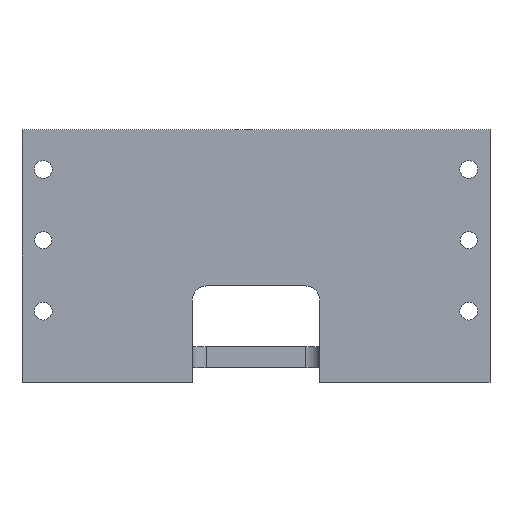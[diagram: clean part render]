
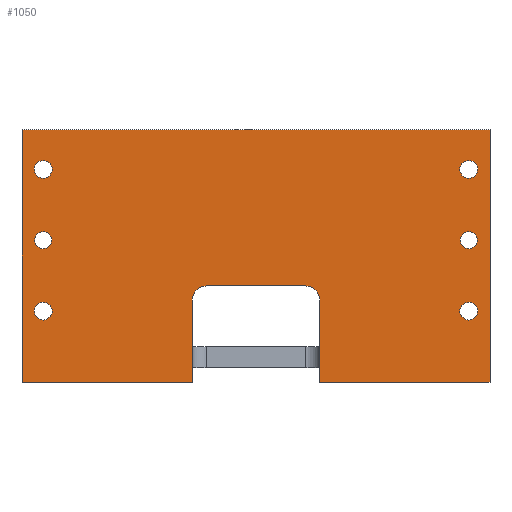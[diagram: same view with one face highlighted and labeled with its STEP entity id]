
A CAD part, front view. The second image highlights one B-rep face of the part: STEP entity #1050.
In plain terms, the highlighted planar face has unit normal (0, -1, 0).
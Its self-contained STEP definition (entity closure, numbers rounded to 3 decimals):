
#18=FACE_BOUND($,#148,.T.);
#19=FACE_BOUND($,#149,.T.);
#20=FACE_BOUND($,#150,.T.);
#21=FACE_BOUND($,#151,.T.);
#22=FACE_BOUND($,#152,.T.);
#23=FACE_BOUND($,#153,.T.);
#55=PLANE($,#1117);
#91=FACE_OUTER_BOUND($,#147,.T.);
#147=EDGE_LOOP($,(#770,#771,#772,#773,#774,#775,#776,#777,#778,#779));
#148=EDGE_LOOP($,(#780));
#149=EDGE_LOOP($,(#781));
#150=EDGE_LOOP($,(#782));
#151=EDGE_LOOP($,(#783));
#152=EDGE_LOOP($,(#784));
#153=EDGE_LOOP($,(#785));
#220=LINE($,#1469,#322);
#232=LINE($,#1503,#334);
#236=LINE($,#1514,#338);
#263=LINE($,#1579,#365);
#264=LINE($,#1581,#366);
#265=LINE($,#1583,#367);
#266=LINE($,#1585,#368);
#267=LINE($,#1586,#369);
#322=VECTOR($,#1192,70.);
#334=VECTOR($,#1220,57.8);
#338=VECTOR($,#1232,57.8);
#365=VECTOR($,#1279,120.);
#366=VECTOR($,#1280,177.8);
#367=VECTOR($,#1281,330.);
#368=VECTOR($,#1282,177.8);
#369=VECTOR($,#1283,120.);
#421=CIRCLE($,#1094,10.);
#426=CIRCLE($,#1105,10.);
#434=CIRCLE($,#1118,6.);
#435=CIRCLE($,#1119,6.);
#436=CIRCLE($,#1120,6.25);
#437=CIRCLE($,#1121,6.25);
#438=CIRCLE($,#1122,6.25);
#439=CIRCLE($,#1123,6.25);
#458=VERTEX_POINT($,#1459);
#459=VERTEX_POINT($,#1461);
#461=VERTEX_POINT($,#1467);
#474=VERTEX_POINT($,#1500);
#475=VERTEX_POINT($,#1502);
#478=VERTEX_POINT($,#1513);
#506=VERTEX_POINT($,#1578);
#507=VERTEX_POINT($,#1580);
#508=VERTEX_POINT($,#1582);
#509=VERTEX_POINT($,#1584);
#510=VERTEX_POINT($,#1587);
#511=VERTEX_POINT($,#1589);
#512=VERTEX_POINT($,#1591);
#513=VERTEX_POINT($,#1593);
#514=VERTEX_POINT($,#1595);
#515=VERTEX_POINT($,#1597);
#558=EDGE_CURVE($,#458,#459,#421,.T.);
#562=EDGE_CURVE($,#458,#461,#220,.T.);
#578=EDGE_CURVE($,#475,#474,#232,.T.);
#582=EDGE_CURVE($,#475,#461,#426,.T.);
#584=EDGE_CURVE($,#478,#459,#236,.T.);
#617=EDGE_CURVE($,#474,#506,#263,.T.);
#618=EDGE_CURVE($,#506,#507,#264,.T.);
#619=EDGE_CURVE($,#507,#508,#265,.T.);
#620=EDGE_CURVE($,#508,#509,#266,.T.);
#621=EDGE_CURVE($,#509,#478,#267,.T.);
#622=EDGE_CURVE($,#510,#510,#434,.T.);
#623=EDGE_CURVE($,#511,#511,#435,.T.);
#624=EDGE_CURVE($,#512,#512,#436,.T.);
#625=EDGE_CURVE($,#513,#513,#437,.T.);
#626=EDGE_CURVE($,#514,#514,#438,.T.);
#627=EDGE_CURVE($,#515,#515,#439,.T.);
#770=ORIENTED_EDGE($,*,*,#584,.T.);
#771=ORIENTED_EDGE($,*,*,#558,.F.);
#772=ORIENTED_EDGE($,*,*,#562,.T.);
#773=ORIENTED_EDGE($,*,*,#582,.F.);
#774=ORIENTED_EDGE($,*,*,#578,.T.);
#775=ORIENTED_EDGE($,*,*,#617,.T.);
#776=ORIENTED_EDGE($,*,*,#618,.T.);
#777=ORIENTED_EDGE($,*,*,#619,.T.);
#778=ORIENTED_EDGE($,*,*,#620,.T.);
#779=ORIENTED_EDGE($,*,*,#621,.T.);
#780=ORIENTED_EDGE($,*,*,#622,.T.);
#781=ORIENTED_EDGE($,*,*,#623,.T.);
#782=ORIENTED_EDGE($,*,*,#624,.T.);
#783=ORIENTED_EDGE($,*,*,#625,.T.);
#784=ORIENTED_EDGE($,*,*,#626,.T.);
#785=ORIENTED_EDGE($,*,*,#627,.T.);
#1050=ADVANCED_FACE($,(#91,#18,#19,#20,#21,#22,#23),#55,.T.);
#1094=AXIS2_PLACEMENT_3D($,#1462,#1185,#1186);
#1105=AXIS2_PLACEMENT_3D($,#1510,#1226,#1227);
#1117=AXIS2_PLACEMENT_3D($,#1577,#1277,#1278);
#1118=AXIS2_PLACEMENT_3D($,#1588,#1284,#1285);
#1119=AXIS2_PLACEMENT_3D($,#1590,#1286,#1287);
#1120=AXIS2_PLACEMENT_3D($,#1592,#1288,#1289);
#1121=AXIS2_PLACEMENT_3D($,#1594,#1290,#1291);
#1122=AXIS2_PLACEMENT_3D($,#1596,#1292,#1293);
#1123=AXIS2_PLACEMENT_3D($,#1598,#1294,#1295);
#1185=DIRECTION('center_axis',(0.,-1.,0.));
#1186=DIRECTION('ref_axis',(-0.707,0.,0.707));
#1192=DIRECTION($,(1.,0.,0.));
#1220=DIRECTION($,(0.,0.,-1.));
#1226=DIRECTION('center_axis',(0.,-1.,0.));
#1227=DIRECTION('ref_axis',(0.707,0.,0.707));
#1232=DIRECTION($,(0.,0.,1.));
#1277=DIRECTION('center_axis',(0.,-1.,0.));
#1278=DIRECTION('ref_axis',(0.,0.,-1.));
#1279=DIRECTION($,(1.,0.,0.));
#1280=DIRECTION($,(0.,0.,1.));
#1281=DIRECTION($,(-1.,0.,0.));
#1282=DIRECTION($,(0.,0.,-1.));
#1283=DIRECTION($,(1.,0.,0.));
#1284=DIRECTION('center_axis',(0.,1.,0.));
#1285=DIRECTION('ref_axis',(1.,0.,0.));
#1286=DIRECTION('center_axis',(0.,1.,0.));
#1287=DIRECTION('ref_axis',(1.,0.,0.));
#1288=DIRECTION('center_axis',(0.,1.,0.));
#1289=DIRECTION('ref_axis',(1.,0.,0.));
#1290=DIRECTION('center_axis',(0.,1.,0.));
#1291=DIRECTION('ref_axis',(1.,0.,0.));
#1292=DIRECTION('center_axis',(0.,1.,0.));
#1293=DIRECTION('ref_axis',(1.,0.,0.));
#1294=DIRECTION('center_axis',(0.,1.,0.));
#1295=DIRECTION('ref_axis',(1.,0.,0.));
#1459=CARTESIAN_POINT('',(-35.,-111.,61.8));
#1461=CARTESIAN_POINT('',(-45.,-111.,51.8));
#1462=CARTESIAN_POINT('Origin',(-35.,-111.,51.8));
#1467=CARTESIAN_POINT('',(35.,-111.,61.8));
#1469=CARTESIAN_POINT($,(0.,-111.,61.8));
#1500=CARTESIAN_POINT('',(45.,-111.,-6.));
#1502=CARTESIAN_POINT('',(45.,-111.,51.8));
#1503=CARTESIAN_POINT($,(45.,-111.,38.45));
#1510=CARTESIAN_POINT('Origin',(35.,-111.,51.8));
#1513=CARTESIAN_POINT('',(-45.,-111.,-6.));
#1514=CARTESIAN_POINT($,(-45.,-111.,38.45));
#1577=CARTESIAN_POINT('Origin',(0.,-111.,82.9));
#1578=CARTESIAN_POINT('',(165.,-111.,-6.));
#1579=CARTESIAN_POINT($,(-165.,-111.,-6.));
#1580=CARTESIAN_POINT('',(165.,-111.,171.8));
#1581=CARTESIAN_POINT($,(165.,-111.,-6.));
#1582=CARTESIAN_POINT('',(-165.,-111.,171.8));
#1583=CARTESIAN_POINT($,(165.,-111.,171.8));
#1584=CARTESIAN_POINT('',(-165.,-111.,-6.));
#1585=CARTESIAN_POINT($,(-165.,-111.,171.8));
#1586=CARTESIAN_POINT($,(-165.,-111.,-6.));
#1587=CARTESIAN_POINT('',(-156.,-111.,94.));
#1588=CARTESIAN_POINT('Origin',(-150.,-111.,94.));
#1589=CARTESIAN_POINT('',(144.,-111.,94.));
#1590=CARTESIAN_POINT('Origin',(150.,-111.,94.));
#1591=CARTESIAN_POINT('',(-156.25,-111.,44.));
#1592=CARTESIAN_POINT('Origin',(-150.,-111.,44.));
#1593=CARTESIAN_POINT('',(143.75,-111.,144.));
#1594=CARTESIAN_POINT('Origin',(150.,-111.,144.));
#1595=CARTESIAN_POINT('',(-156.25,-111.,144.));
#1596=CARTESIAN_POINT('Origin',(-150.,-111.,144.));
#1597=CARTESIAN_POINT('',(143.75,-111.,44.));
#1598=CARTESIAN_POINT('Origin',(150.,-111.,44.));
